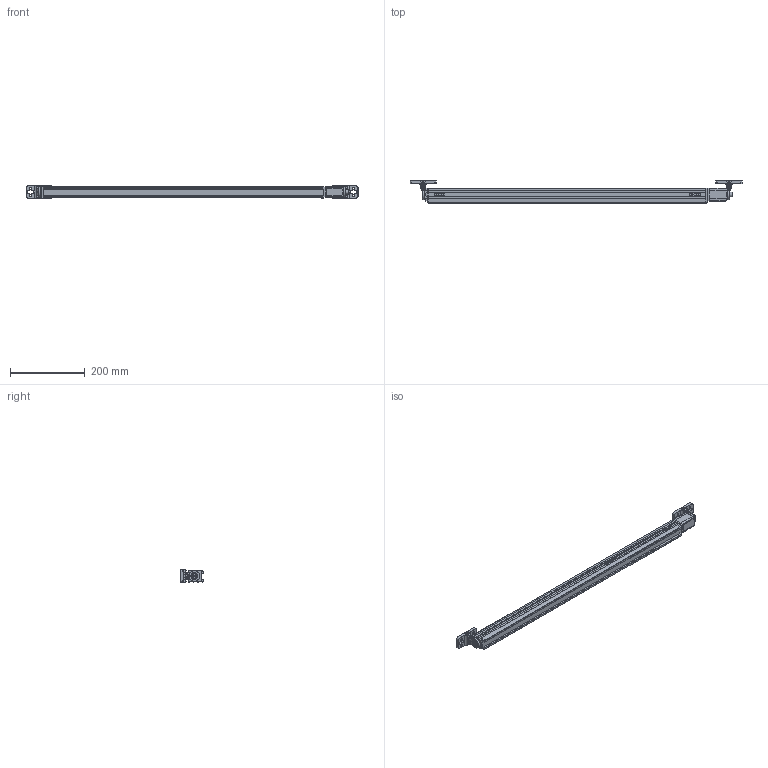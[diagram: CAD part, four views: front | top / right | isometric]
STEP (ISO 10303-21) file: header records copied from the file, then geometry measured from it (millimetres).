
FILE_DESCRIPTION((''),'2;1');
FILE_NAME('M:\INVENTORjob\Konstruktion\LV6036\Freigabe\Bauraummodelle\Geräte\stp\MLC_R_750 EX-V2.stp','2016-02-05T10:37:17',('phaberl'),(''),'Autodesk Inventor 2009','Autodesk Inventor 2009','');
FILE_SCHEMA(('AUTOMOTIVE_DESIGN { 1 0 10303 214 1 1 1 1 }'));
Length unit declared in the file: millimetre
Products named in the file (15): MLC_R_750 EX-V2; Anschlusskappe_R; Profil MLC 750 EX-V2; Endkappe_R; BT-R_Zubehör; Wandteil_Zubehör; Klemmring_BT-R_Zubehör; DIN 912 - ersetzt durch DIN EN ISO 4762 M5 x 12; DIN 934 - ersetzt durch DIN EN 24032/28673/28674 M5; DIN 6912 M5 x 30; Zylinder_Zubehör; DIN 7991 - ersetzt durch DIN EN ISO 10642 M6  x  10; Nutenstein M6; EX-Ring Endkappe-R-V2; EX-Ring Anschlusskappe-R-V2
Assembly tree (18 placements, depth 3):
  MLC_R_750 EX-V2
    Anschlusskappe_R
    Profil MLC 750 EX-V2
    Endkappe_R
    BT-R_Zubehör  x2
      Wandteil_Zubehör
      Klemmring_BT-R_Zubehör
      DIN 912 - ersetzt durch DIN EN ISO 4762 M5 x 12
      DIN 934 - ersetzt durch DIN EN 24032/28673/28674 M5
      DIN 6912 M5 x 30
    Zylinder_Zubehör
    DIN 7991 - ersetzt durch DIN EN ISO 10642 M6  x  10
    Nutenstein M6  x2
    EX-Ring Endkappe-R-V2
    EX-Ring Anschlusskappe-R-V2
Bounding box: 889.15 x 59.5 x 34 mm (x, y, z)
Volume: 849560.5 mm3; surface area: 187822.3 mm2
Topology: 23 solids, 23 shells, 927 faces, 2463 edges, 1569 vertices
Faces by surface type: plane 400, cylinder 295, bspline 121, torus 47, cone 46, sphere 18
Full cylindrical faces by diameter (mm): 2.5 x2, 4.65 x2, 5 x12, 5.18 x2, 5.55 x2, 6 x1, 6.2 x9, 8.5 x4, 8.6 x2, 11.34 x1, 12 x2, 18 x1, 22.5 x1
Entity records: 17363 total; most frequent: CARTESIAN_POINT 5066, ORIENTED_EDGE 2498, DIRECTION 2409, EDGE_CURVE 1249, AXIS2_PLACEMENT_3D 858, VERTEX_POINT 833, VECTOR 693, LINE 693
